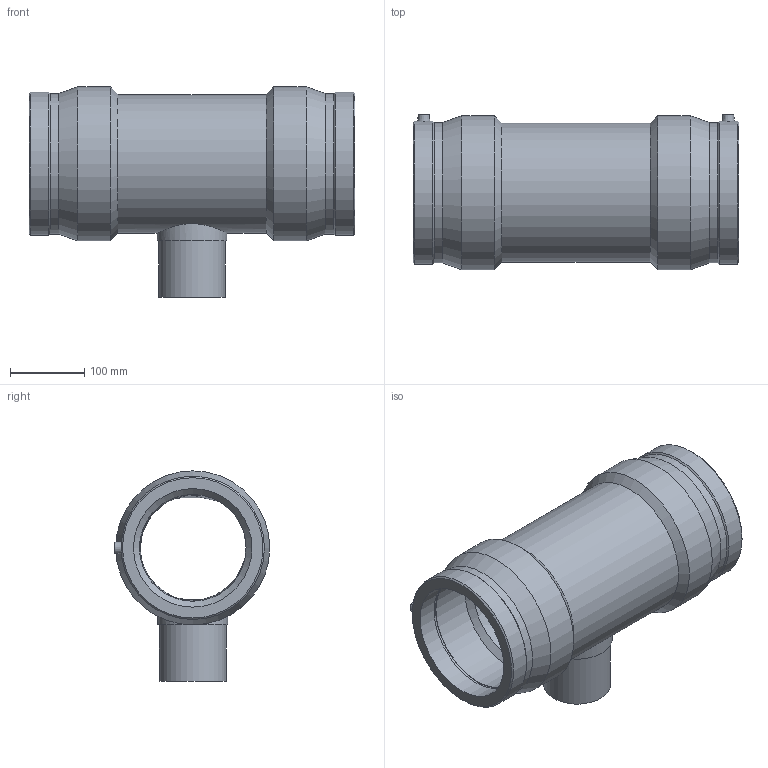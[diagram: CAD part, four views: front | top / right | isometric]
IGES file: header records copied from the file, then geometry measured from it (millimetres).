
Global section: file name: 491404160090.ipt; native system: Autodesk Inventor 2015; preprocessor: unknown; author: KIM; date: 20171106.093854; units: millimetre
Bounding box: 440 x 210 x 284 mm (x, y, z)
Volume: 5316786.3 mm3; surface area: 550607.5 mm2
Topology: 1 solids, 1 shells, 45 faces, 101 edges, 66 vertices
Faces by surface type: plane 12, revolution 12, cylinder 11, cone 10
Full cylindrical faces by diameter (mm): 4 x2, 90 x1, 94.5 x1, 187.2 x1, 189.571 x2, 193.44 x2, 208 x2
